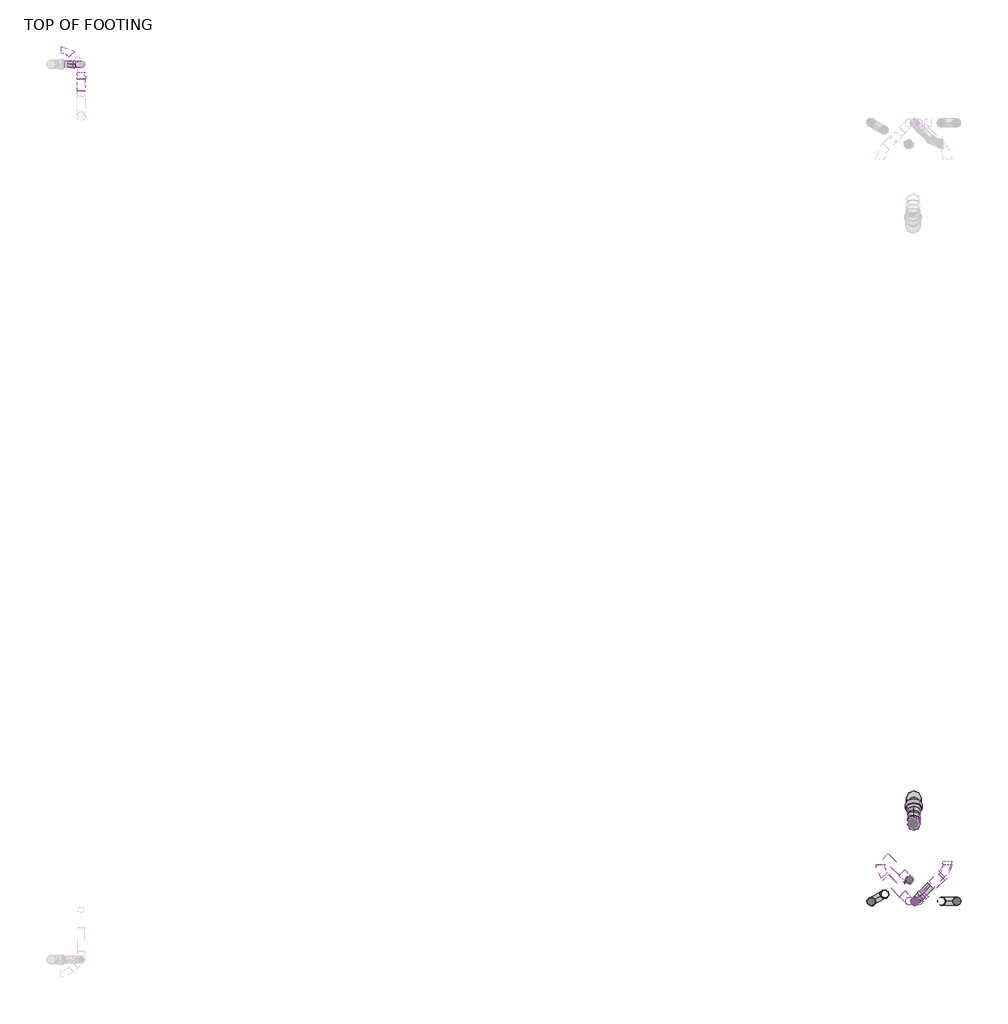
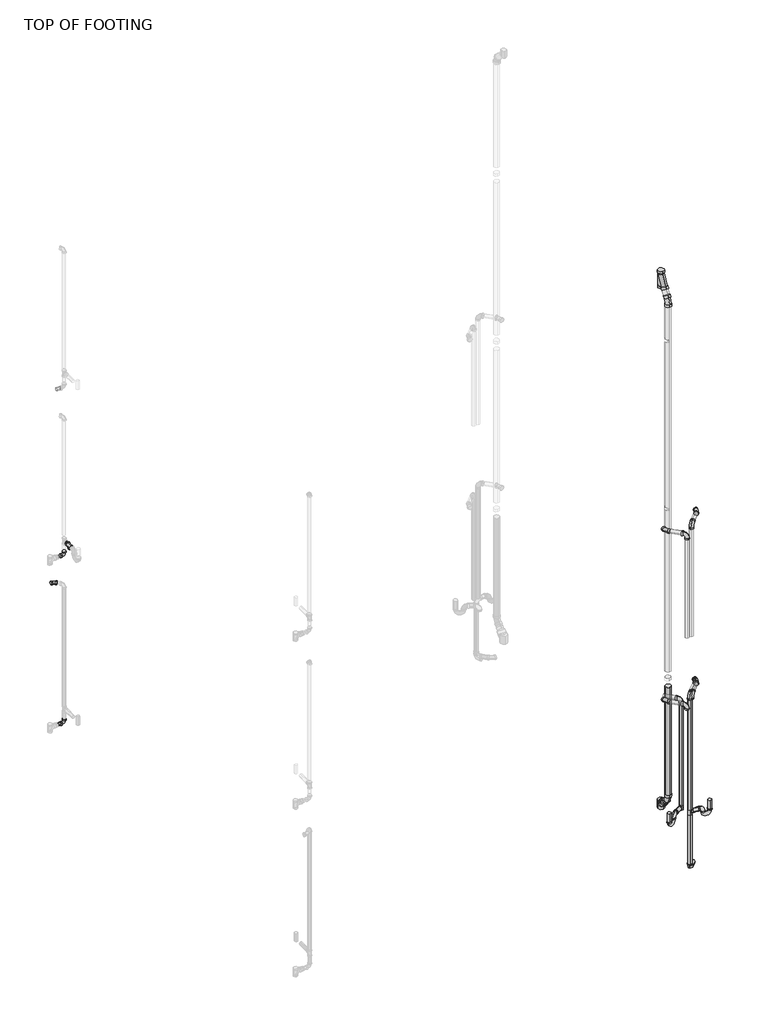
# One storey, part 2 of 8: 27 pipe segments, 26 pipe fittings.
"""IFC4 building model written with IfcOpenShell, lengths in millimetres."""

from ifc_helpers import new_model, si_unit, point, frame, frame_2d, origin, place, context, project, spatial, circle_curve, trimmed, segment, composite_curve, outline, extrude, transform, mapped, element, save
from components import bend_pvc_sch_40_dwv_standard_738aab8b, bend_pvc_sch_40_dwv_standard_e59a9f3a, bend_pvc_sch_40_dwv_standard_f2f5988a, bend_pvc_sch_40_dwv_standard_afcfb702, bend_pvc_sch_40_dwv_standard_1eaeee76, bend_pvc_sch_40_dwv_standard_49f8c181, bend_pvc_sch_40_dwv_standard_f64d1520, bend_pvc_sch_40_dwv_standard_5ba2ab1b, bend_pvc_sch_40_dwv_standard_b2fbb50d, bend_pvc_sch_40_dwv_standard_88107920, ges_wye_45_deg_reducing_pvc_sch_40_dwv_standard_f9c3620a, pipe_tee_copper_k_0c7b4938, pipe_tee_copper_k_998683db, pipe_tee_copper_k_96819ad6, pipe_tee_copper_k_36278b8a, reducer_pvc_sch_40_dwv_standard_b2b0afcc, reducer_pvc_sch_40_dwv_standard_33e9f33e, standard_73d07651, standard_8c31f35f

model = new_model("IFC4")

# Units and contexts
model_context = context("Model", 3, world=origin())
ifc_project = project(units=[si_unit("LENGTHUNIT", "METRE", prefix="MILLI")], contexts=[model_context])

# Site, building, storey
site = spatial("IfcSite", under=ifc_project)
building = spatial("IfcBuilding", under=site)
storey = spatial("IfcBuildingStorey", under=building, Name="TOP OF FOOTING", Elevation=-762.0)

# Pipe fittings
placement = place(None, origin())
bend_pvc_sch_40_dwv_standard_shape = bend_pvc_sch_40_dwv_standard_738aab8b(model_context)
element("IfcPipeFitting", 1, ObjectType="Bend - PVC - Sch 40 - DWV : Standard", at=placement, inside=storey, context=model_context, shape_type="MappedRepresentation", body=[
    mapped(bend_pvc_sch_40_dwv_standard_shape, transform((-4229.3040125, 8911.2827391, 337.3617935), x_axis=(1.0, 0.0, 0.0), y_axis=(0.0, 0.0, 1.0), z_axis=(0.0, -1.0, 0.0))),
])
element("IfcPipeFitting", 2, ObjectType="Bend - PVC - Sch 40 - DWV : Standard", at=placement, inside=storey, context=model_context, shape_type="MappedRepresentation", body=[
    mapped(bend_pvc_sch_40_dwv_standard_shape, transform((-4229.3040125, 8911.2827391, 3182.1617935), x_axis=(1.0, 0.0, 0.0), y_axis=(0.0, 0.0, 1.0), z_axis=(0.0, -1.0, 0.0))),
])
bend_pvc_sch_40_dwv_standard_2_shape = bend_pvc_sch_40_dwv_standard_e59a9f3a(model_context)
element("IfcPipeFitting", 3, ObjectType="Bend - PVC - Sch 40 - DWV : Standard", at=placement, inside=storey, context=model_context, shape_type="MappedRepresentation", body=[
    mapped(bend_pvc_sch_40_dwv_standard_2_shape, transform((-4335.4643184, 9017.693639, 2683.7324777), x_axis=(-0.7070684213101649, 0.7071067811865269, 0.007365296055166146), y_axis=(-0.7070684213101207, -0.7071067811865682, 0.007365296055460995), z_axis=(0.01041610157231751, 0.0, 0.9999457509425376))),
])
bend_pvc_sch_40_dwv_standard_3_shape = bend_pvc_sch_40_dwv_standard_f2f5988a(model_context)
element("IfcPipeFitting", 4, ObjectType="Bend - PVC - Sch 40 - DWV : Standard", at=placement, inside=storey, context=model_context, shape_type="MappedRepresentation", body=[
    mapped(bend_pvc_sch_40_dwv_standard_3_shape, transform((1864.3084882, 2756.9013629, 5188.0113455), x_axis=(2.761384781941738e-10, -0.9999999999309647, 1.1750347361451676e-05), y_axis=(0.9999999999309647, 1.3806781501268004e-10, -1.1750347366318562e-05), z_axis=(1.1750347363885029e-05, 1.175034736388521e-05, 0.9999999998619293))),
])
element("IfcPipeFitting", 5, ObjectType="Bend - PVC - Sch 40 - DWV : Standard", at=placement, inside=storey, context=model_context, shape_type="MappedRepresentation", body=[
    mapped(bend_pvc_sch_40_dwv_standard_3_shape, transform((1864.3084882, 2756.8345081, 2298.7613463), x_axis=(2.761384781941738e-10, -0.9999999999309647, 1.1750347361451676e-05), y_axis=(0.9999999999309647, 1.3806781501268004e-10, -1.1750347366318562e-05), z_axis=(1.1750347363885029e-05, 1.175034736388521e-05, 0.9999999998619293))),
])
bend_pvc_sch_40_dwv_standard_4_shape = bend_pvc_sch_40_dwv_standard_afcfb702(model_context)
element("IfcPipeFitting", 6, ObjectType="Bend - PVC - Sch 40 - DWV : Standard", at=placement, inside=storey, context=model_context, shape_type="MappedRepresentation", body=[
    mapped(bend_pvc_sch_40_dwv_standard_4_shape, transform((2125.6547588, 2534.3452569, -490.0650541), x_axis=(-8.473962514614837e-06, -4.618834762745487e-06, -0.9999999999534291), y_axis=(0.7070876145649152, 0.7071259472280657, -9.257931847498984e-06), z_axis=(0.707125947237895, -0.7070876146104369, -2.7262379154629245e-06))),
])
bend_pvc_sch_40_dwv_standard_5_shape = bend_pvc_sch_40_dwv_standard_1eaeee76(model_context)
element("IfcPipeFitting", 7, ObjectType="Bend - PVC - Sch 40 - DWV : Standard", at=placement, inside=storey, context=model_context, shape_type="MappedRepresentation", body=[
    mapped(bend_pvc_sch_40_dwv_standard_5_shape, transform((2082.6624053, 2697.0376775, 2298.6947608), x_axis=(0.0, 0.0, 1.0), y_axis=(-0.7071067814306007, 0.7071067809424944, 0.0), z_axis=(-0.7071067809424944, -0.7071067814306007, 0.0))),
])
element("IfcPipeFitting", 8, ObjectType="Bend - PVC - Sch 40 - DWV : Standard", at=placement, inside=storey, context=model_context, shape_type="MappedRepresentation", body=[
    mapped(bend_pvc_sch_40_dwv_standard_5_shape, transform((2085.2449931, 2535.844278, 5187.9447608), x_axis=(0.0, 0.0, 1.0), y_axis=(-0.7071067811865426, 0.7071067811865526, 0.0), z_axis=(-0.7071067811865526, -0.7071067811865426, 0.0))),
])
element("IfcPipeFitting", 9, ObjectType="Bend - PVC - Sch 40 - DWV : Standard", at=placement, inside=storey, context=model_context, shape_type="MappedRepresentation", body=[
    mapped(bend_pvc_sch_40_dwv_standard_5_shape, transform((2085.2449931, 2535.844278, 2298.6947608), x_axis=(0.0, 0.0, 1.0), y_axis=(-0.7071067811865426, 0.7071067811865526, 0.0), z_axis=(-0.7071067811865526, -0.7071067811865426, 0.0))),
])
bend_pvc_sch_40_dwv_standard_6_shape = bend_pvc_sch_40_dwv_standard_49f8c181(model_context)
element("IfcPipeFitting", 10, ObjectType="Bend - PVC - Sch 40 - DWV : Standard", at=placement, inside=storey, context=model_context, shape_type="MappedRepresentation", body=[
    mapped(bend_pvc_sch_40_dwv_standard_6_shape, transform((2151.4348028, 2535.7814571, 5340.345709), x_axis=(0.0, 0.0, 1.0), y_axis=(-0.7071067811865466, -0.7071067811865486, 0.0), z_axis=(0.7071067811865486, -0.7071067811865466, 0.0))),
])
element("IfcPipeFitting", 11, ObjectType="Bend - PVC - Sch 40 - DWV : Standard", at=placement, inside=storey, context=model_context, shape_type="MappedRepresentation", body=[
    mapped(bend_pvc_sch_40_dwv_standard_6_shape, transform((2151.4348028, 2535.7814571, 2451.095709), x_axis=(0.0, 0.0, 1.0), y_axis=(-0.7071067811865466, -0.7071067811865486, 0.0), z_axis=(0.7071067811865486, -0.7071067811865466, 0.0))),
])
bend_pvc_sch_40_dwv_standard_7_shape = bend_pvc_sch_40_dwv_standard_f64d1520(model_context)
element("IfcPipeFitting", 12, ObjectType="Bend - PVC - Sch 40 - DWV : Standard", at=placement, inside=storey, context=model_context, shape_type="MappedRepresentation", body=[
    mapped(bend_pvc_sch_40_dwv_standard_7_shape, transform((2372.3084874, 2780.9836988, 2451.0912059), x_axis=(2.761384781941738e-10, -0.9999999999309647, 1.1750347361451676e-05), y_axis=(0.9999999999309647, 1.3806781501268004e-10, -1.1750347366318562e-05), z_axis=(1.1750347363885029e-05, 1.175034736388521e-05, 0.9999999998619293))),
])
element("IfcPipeFitting", 13, ObjectType="Bend - PVC - Sch 40 - DWV : Standard", at=placement, inside=storey, context=model_context, shape_type="MappedRepresentation", body=[
    mapped(bend_pvc_sch_40_dwv_standard_7_shape, transform((2372.3084882, 2756.7793027, 5340.4113469), x_axis=(2.761384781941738e-10, -0.9999999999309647, 1.1750347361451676e-05), y_axis=(0.9999999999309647, 1.3806781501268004e-10, -1.1750347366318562e-05), z_axis=(1.1750347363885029e-05, 1.175034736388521e-05, 0.9999999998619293))),
])
element("IfcPipeFitting", 14, ObjectType="Bend - PVC - Sch 40 - DWV : Standard", at=placement, inside=storey, context=model_context, shape_type="MappedRepresentation", body=[
    mapped(bend_pvc_sch_40_dwv_standard_7_shape, transform((2372.3084882, 2756.712448, 2451.1613477), x_axis=(2.761384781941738e-10, -0.9999999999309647, 1.1750347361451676e-05), y_axis=(0.9999999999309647, 1.3806781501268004e-10, -1.1750347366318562e-05), z_axis=(1.1750347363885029e-05, 1.175034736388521e-05, 0.9999999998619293))),
])
bend_pvc_sch_40_dwv_standard_8_shape = bend_pvc_sch_40_dwv_standard_5ba2ab1b(model_context)
element("IfcPipeFitting", 15, ObjectType="Bend - PVC - Sch 40 - DWV : Standard", at=placement, inside=storey, context=model_context, shape_type="MappedRepresentation", body=[
    mapped(bend_pvc_sch_40_dwv_standard_8_shape, transform((2118.3714513, 3124.1641419, 8773.9167613), x_axis=(0.0, 0.0, 1.0), y_axis=(-0.005243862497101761, 0.9999862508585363, 0.0), z_axis=(-0.9999862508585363, -0.005243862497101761, 0.0))),
])
bend_pvc_sch_40_dwv_standard_9_shape = bend_pvc_sch_40_dwv_standard_b2fbb50d(model_context)
element("IfcPipeFitting", 16, ObjectType="Bend - PVC - Sch 40 - DWV : Standard", at=placement, inside=storey, context=model_context, shape_type="MappedRepresentation", body=[
    mapped(bend_pvc_sch_40_dwv_standard_9_shape, transform((2118.30848, 3124.1638117, 328.2927869), x_axis=(0.0, 0.0, -1.0), y_axis=(0.0, 1.0, 0.0), z_axis=(1.0, 0.0, 0.0))),
])
bend_pvc_sch_40_dwv_standard_10_shape = bend_pvc_sch_40_dwv_standard_88107920(model_context)
element("IfcPipeFitting", 17, ObjectType="Bend - PVC - Sch 40 - DWV : Standard", at=placement, inside=storey, context=model_context, shape_type="MappedRepresentation", body=[
    mapped(bend_pvc_sch_40_dwv_standard_10_shape, transform((2125.6812457, 2534.356457, 2451.0970018), x_axis=(-0.7071067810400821, -0.7071067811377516, 1.6617500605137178e-05), y_axis=(-1.1750347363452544e-05, -1.1750347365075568e-05, -0.9999999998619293), z_axis=(0.7071067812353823, -0.7071067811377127, 0.0))),
])
ges_wye_45_deg_reducing_pvc_sch_40_dwv_standard_shape = ges_wye_45_deg_reducing_pvc_sch_40_dwv_standard_f9c3620a(model_context)
element("IfcPipeFitting", 18, ObjectType="GES Wye 45 Deg Reducing - PVC - Sch 40 - DWV : Standard", at=placement, inside=storey, context=model_context, shape_type="MappedRepresentation", body=[
    mapped(ges_wye_45_deg_reducing_pvc_sch_40_dwv_standard_shape, transform((2117.9266298, 3321.8387881, 9116.2992918), x_axis=(0.0, 0.0, 1.0), y_axis=(0.0, 1.0, 0.0), z_axis=(-1.0, 0.0, 0.0))),
])
pipe_tee_copper_k_shape = pipe_tee_copper_k_0c7b4938(model_context)
element("IfcPipeFitting", 19, ObjectType="Pipe Tee : Copper- K", at=placement, inside=storey, context=model_context, shape_type="MappedRepresentation", body=[
    mapped(pipe_tee_copper_k_shape, transform((2117.9109319, 3320.2843323, 132.1722666), x_axis=(1.7626347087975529e-06, 0.0, 0.9999999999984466), y_axis=(1.7626347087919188e-06, 0.9999999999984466, -3.106881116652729e-12), z_axis=(-0.9999999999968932, 1.7626347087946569e-06, 1.7626347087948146e-06))),
])
pipe_tee_copper_k_2_shape = pipe_tee_copper_k_998683db(model_context)
element("IfcPipeFitting", 20, ObjectType="Pipe Tee : Copper- K", at=placement, inside=storey, context=model_context, shape_type="MappedRepresentation", body=[
    mapped(pipe_tee_copper_k_2_shape, transform((2125.6631493, 2534.3465934, 465.1721638), x_axis=(9.48387163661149e-06, 5.169297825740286e-06, 0.9999999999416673), y_axis=(-0.9999999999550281, 4.902495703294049e-11, 9.483871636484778e-06), z_axis=(0.0, -0.9999999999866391, 5.169297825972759e-06))),
])
pipe_tee_copper_k_3_shape = pipe_tee_copper_k_96819ad6(model_context)
element("IfcPipeFitting", 21, ObjectType="Pipe Tee : Copper- K", at=placement, inside=storey, context=model_context, shape_type="MappedRepresentation", body=[
    mapped(pipe_tee_copper_k_3_shape, transform((2082.3411147, 2696.8534263, 465.1758179), x_axis=(0.007495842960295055, 0.0042986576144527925, 0.9999626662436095), y_axis=(0.8674460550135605, 0.49745620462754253, -0.008640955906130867), z_axis=(-0.497474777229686, 0.8674784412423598, 0.0))),
])
pipe_tee_copper_k_4_shape = pipe_tee_copper_k_36278b8a(model_context)
element("IfcPipeFitting", 22, ObjectType="Pipe Tee : Standard", at=placement, inside=storey, context=model_context, shape_type="MappedRepresentation", body=[
    mapped(pipe_tee_copper_k_4_shape, transform((-4229.3040125, 8753.1790386, 3423.7221294), x_axis=(0.0, 0.999989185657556, 0.004650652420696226), y_axis=(0.0, -0.004650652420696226, 0.999989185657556), z_axis=(1.0, 0.0, 0.0))),
])
reducer_pvc_sch_40_dwv_standard_shape = reducer_pvc_sch_40_dwv_standard_b2b0afcc(model_context)
element("IfcPipeFitting", 23, ObjectType="Reducer - PVC - Sch 40 - DWV : Standard", at=placement, inside=storey, context=model_context, shape_type="MappedRepresentation", body=[
    mapped(reducer_pvc_sch_40_dwv_standard_shape, transform((-4229.3040125, 8849.6166218, 3423.4948628), x_axis=(0.0, -0.999945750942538, 0.010416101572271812), y_axis=(1.0000000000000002, 0.0, 0.0), z_axis=(0.0, 0.010416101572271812, 0.999945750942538))),
])
reducer_pvc_sch_40_dwv_standard_2_shape = reducer_pvc_sch_40_dwv_standard_33e9f33e(model_context)
element("IfcPipeFitting", 24, ObjectType="Reducer - PVC - Sch 40 - DWV : Standard", at=placement, inside=storey, context=model_context, shape_type="MappedRepresentation", body=[
    mapped(reducer_pvc_sch_40_dwv_standard_2_shape, transform((2117.9109319, 3272.0154557, 180.4411432), x_axis=(0.0, -0.70710678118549, 0.7071067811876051), y_axis=(0.9999999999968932, -1.7626347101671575e-06, -1.7626347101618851e-06), z_axis=(2.4927419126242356e-06, 0.7071067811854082, 0.7071067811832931))),
])
standard_shape = standard_73d07651(model_context)
element("IfcPipeFitting", 25, ObjectType="GES P TRAP PVC Sch 40 - DWV : Standard", at=placement, inside=storey, context=model_context, shape_type="MappedRepresentation", body=[
    mapped(standard_shape, transform((1794.0401975, 2531.6909405, 465.1721683), x_axis=(0.0, 0.0, -1.0), y_axis=(0.8674784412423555, 0.49747477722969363, 0.0), z_axis=(0.49747477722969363, -0.8674784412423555, 0.0))),
])
standard_2_shape = standard_8c31f35f(model_context)
element("IfcPipeFitting", 26, ObjectType="GES P TRAP PVC Sch 40 - DWV : Standard", at=placement, inside=storey, context=model_context, shape_type="MappedRepresentation", body=[
    mapped(standard_2_shape, transform((2445.5044895, 2534.3465934, 465.1721638), x_axis=(0.0, 0.0, -1.0), y_axis=(1.0, 0.0, 0.0), z_axis=(0.0, -1.0, 0.0))),
])

# Pipe segments
element("IfcPipeSegment", 27, ObjectType="PVC - SAN/STORM", at=placement, inside=storey, context=model_context, shape_type="SweptSolid", body=[
    extrude(outline(composite_curve([segment(trimmed(circle_curve(frame_2d((2534.3465934, 465.1721638)), 30.1625), [point((2564.5090934, 465.1721638))], [point((2534.3465934, 435.0096638))], False, "CARTESIAN"), True, "CONTINUOUS"), segment(trimmed(circle_curve(frame_2d((2534.3465934, 465.1721638)), 30.1625), [point((2534.3465934, 435.0096638))], [point((2504.1840934, 465.1721638))], False, "CARTESIAN"), True, "CONTINUOUS"), segment(trimmed(circle_curve(frame_2d((2534.3465934, 465.1721638)), 30.1625), [point((2504.1840934, 465.1721638))], [point((2534.3465934, 495.3346638))], False, "CARTESIAN"), True, "CONTINUOUS"), segment(trimmed(circle_curve(frame_2d((2534.3465934, 465.1721638)), 30.1625), [point((2534.3465934, 495.3346638))], [point((2564.5090934, 465.1721638))], False, "CARTESIAN"), True, "CONTINUOUS")], self_intersect=False)), frame((2168.5256493, 0.0, 0.0), z_axis=(1.0, 0.0, 0.0), x_axis=(0.0, 1.0, 0.0)), (0.0, 0.0, 1.0), 84.8913402),
])
element("IfcPipeSegment", 28, ObjectType="PVC - SAN/STORM", at=placement, inside=storey, context=model_context, shape_type="SweptSolid", body=[
    extrude(outline(composite_curve([segment(trimmed(circle_curve(frame_2d((2445.5044895, 2534.3465934)), 30.1625), [point((2415.3419895, 2534.3465934))], [point((2445.5044895, 2564.5090934))], False, "CARTESIAN"), True, "CONTINUOUS"), segment(trimmed(circle_curve(frame_2d((2445.5044895, 2534.3465934)), 30.1625), [point((2445.5044895, 2564.5090934))], [point((2475.6669895, 2534.3465934))], False, "CARTESIAN"), True, "CONTINUOUS"), segment(trimmed(circle_curve(frame_2d((2445.5044895, 2534.3465934)), 30.1625), [point((2475.6669895, 2534.3465934))], [point((2445.5044895, 2504.1840934))], False, "CARTESIAN"), True, "CONTINUOUS"), segment(trimmed(circle_curve(frame_2d((2445.5044895, 2534.3465934)), 30.1625), [point((2445.5044895, 2504.1840934))], [point((2415.3419895, 2534.3465934))], False, "CARTESIAN"), True, "CONTINUOUS")], self_intersect=False)), frame((0.0, 0.0, 417.5471638), z_axis=(0.0, 0.0, 1.0), x_axis=(1.0, 0.0, 0.0)), (0.0, 0.0, 1.0), 143.953922),
])
element("IfcPipeSegment", 29, ObjectType="PVC - SAN/STORM", at=placement, inside=storey, context=model_context, shape_type="SweptSolid", body=[
    extrude(outline(composite_curve([segment(trimmed(circle_curve(frame_2d((0.0, -30.1625)), 30.1625), [point((-30.1625, -30.1625))], [point((0.0, 0.0))], False, "CARTESIAN"), True, "CONTINUOUS"), segment(trimmed(circle_curve(frame_2d((0.0, -30.1625)), 30.1625), [point((0.0, 0.0))], [point((30.1625, -30.1625))], False, "CARTESIAN"), True, "CONTINUOUS"), segment(trimmed(circle_curve(frame_2d((0.0, -30.1625)), 30.1625), [point((30.1625, -30.1625))], [point((0.0, -60.325))], False, "CARTESIAN"), True, "CONTINUOUS"), segment(trimmed(circle_curve(frame_2d((0.0, -30.1625)), 30.1625), [point((0.0, -60.325))], [point((-30.1625, -30.1625))], False, "CARTESIAN"), True, "CONTINUOUS")], self_intersect=False)), frame((2125.655418, 2504.1831162, -412.2648268), z_axis=(8.776632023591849e-06, 9.053704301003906e-07, 0.9999999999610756), x_axis=(-0.9999999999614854, 7.945644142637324e-12, 8.776632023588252e-06)), (0.0, 0.0, 1.0), 834.574518),
])
element("IfcPipeSegment", 30, ObjectType="PVC - SAN/STORM", at=placement, inside=storey, context=model_context, shape_type="SweptSolid", body=[
    extrude(outline(composite_curve([segment(trimmed(circle_curve(frame_2d((-1e-07, 30.1625)), 30.1625), [point((-30.161682, 30.3846377))], [point((0.2221376, 60.324182))], False, "CARTESIAN"), True, "CONTINUOUS"), segment(trimmed(circle_curve(frame_2d((-1e-07, 30.1625)), 30.1625), [point((0.2221376, 60.324182))], [point((30.161682, 29.9403623))], False, "CARTESIAN"), True, "CONTINUOUS"), segment(trimmed(circle_curve(frame_2d((-1e-07, 30.1625)), 30.1625), [point((30.161682, 29.9403623))], [point((-0.2221377, 0.000818))], False, "CARTESIAN"), True, "CONTINUOUS"), segment(trimmed(circle_curve(frame_2d((-1e-07, 30.1625)), 30.1625), [point((-0.2221377, 0.000818))], [point((-30.161682, 30.3846377))], False, "CARTESIAN"), True, "CONTINUOUS")], self_intersect=False)), frame((2243.87995, 2652.2627034, -521.4574304), z_axis=(-0.707068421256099, -0.7071067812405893, 0.007365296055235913), x_axis=(0.7071451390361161, -0.7070300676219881, 0.007364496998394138)), (0.0, 0.0, 1.0), 89.4045395),
])
element("IfcPipeSegment", 31, ObjectType="PVC - SAN/STORM", at=placement, inside=storey, context=model_context, shape_type="SweptSolid", body=[
    extrude(outline(composite_curve([segment(trimmed(circle_curve(frame_2d((0.0, 30.1625)), 30.1625), [point((30.1625, 30.1625))], [point((0.0, 0.0))], False, "CARTESIAN"), True, "CONTINUOUS"), segment(trimmed(circle_curve(frame_2d((0.0, 30.1625)), 30.1625), [point((0.0, 0.0))], [point((-30.1625, 30.1625))], False, "CARTESIAN"), True, "CONTINUOUS"), segment(trimmed(circle_curve(frame_2d((0.0, 30.1625)), 30.1625), [point((-30.1625, 30.1625))], [point((0.0, 60.325))], False, "CARTESIAN"), True, "CONTINUOUS"), segment(trimmed(circle_curve(frame_2d((0.0, 30.1625)), 30.1625), [point((0.0, 60.325))], [point((30.1625, 30.1625))], False, "CARTESIAN"), True, "CONTINUOUS")], self_intersect=False)), frame((1960.7453594, 2627.12164, 495.3383179), z_axis=(0.8674784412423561, 0.49747477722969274, 0.0), x_axis=(0.49747477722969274, -0.8674784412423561, 0.0)), (0.0, 0.0, 1.0), 97.3090011),
])
element("IfcPipeSegment", 32, ObjectType="PVC - SAN/STORM", at=placement, inside=storey, context=model_context, shape_type="SweptSolid", body=[
    extrude(outline(composite_curve([segment(trimmed(circle_curve(frame_2d((1794.0401975, 2531.6909405)), 30.1625), [point((1763.8776975, 2531.6909405))], [point((1794.0401975, 2561.8534405))], False, "CARTESIAN"), True, "CONTINUOUS"), segment(trimmed(circle_curve(frame_2d((1794.0401975, 2531.6909405)), 30.1625), [point((1794.0401975, 2561.8534405))], [point((1824.2026975, 2531.6909405))], False, "CARTESIAN"), True, "CONTINUOUS"), segment(trimmed(circle_curve(frame_2d((1794.0401975, 2531.6909405)), 30.1625), [point((1824.2026975, 2531.6909405))], [point((1794.0401975, 2501.5284405))], False, "CARTESIAN"), True, "CONTINUOUS"), segment(trimmed(circle_curve(frame_2d((1794.0401975, 2531.6909405)), 30.1625), [point((1794.0401975, 2501.5284405))], [point((1763.8776975, 2531.6909405))], False, "CARTESIAN"), True, "CONTINUOUS")], self_intersect=False)), frame((0.0, 0.0, 417.5471683), z_axis=(0.0, 0.0, 1.0), x_axis=(1.0, 0.0, 0.0)), (0.0, 0.0, 1.0), 143.9539175),
])
element("IfcPipeSegment", 33, ObjectType="PVC - SAN/STORM", at=placement, inside=storey, context=model_context, shape_type="SweptSolid", body=[
    extrude(outline(composite_curve([segment(trimmed(circle_curve(frame_2d((0.0, -30.1625)), 30.1625), [point((30.1625, -30.1630012))], [point((-0.0005012, -60.325))], False, "CARTESIAN"), True, "CONTINUOUS"), segment(trimmed(circle_curve(frame_2d((0.0, -30.1625)), 30.1625), [point((-0.0005012, -60.325))], [point((-30.1625, -30.1619988))], False, "CARTESIAN"), True, "CONTINUOUS"), segment(trimmed(circle_curve(frame_2d((0.0, -30.1625)), 30.1625), [point((-30.1625, -30.1619988))], [point((0.0005012, 0.0))], False, "CARTESIAN"), True, "CONTINUOUS"), segment(trimmed(circle_curve(frame_2d((0.0, -30.1625)), 30.1625), [point((0.0005012, 0.0))], [point((30.1625, -30.1630012))], False, "CARTESIAN"), True, "CONTINUOUS")], self_intersect=False)), frame((2331.8973349, 2740.5732551, 2481.2546556), z_axis=(-0.70710678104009, -0.7071067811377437, 1.6617500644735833e-05), x_axis=(0.7071067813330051, -0.7071067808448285, 1.661750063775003e-05)), (0.0, 0.0, 1.0), 213.8333902),
])
element("IfcPipeSegment", 34, ObjectType="PVC - SAN/STORM", at=placement, inside=storey, context=model_context, shape_type="SweptSolid", body=[
    extrude(outline(composite_curve([segment(trimmed(circle_curve(frame_2d((0.0, 30.1625)), 30.1625), [point((30.1625, 30.1625))], [point((0.0, 0.0))], False, "CARTESIAN"), True, "CONTINUOUS"), segment(trimmed(circle_curve(frame_2d((0.0, 30.1625)), 30.1625), [point((0.0, 0.0))], [point((-30.1624999, 30.1625))], False, "CARTESIAN"), True, "CONTINUOUS"), segment(trimmed(circle_curve(frame_2d((0.0, 30.1625)), 30.1625), [point((-30.1624999, 30.1625))], [point((0.0, 60.325))], False, "CARTESIAN"), True, "CONTINUOUS"), segment(trimmed(circle_curve(frame_2d((0.0, 30.1625)), 30.1625), [point((0.0, 60.325))], [point((30.1625, 30.1625))], False, "CARTESIAN"), True, "CONTINUOUS")], self_intersect=False)), frame((2027.6493562, 2752.0507265, 2328.8572608), z_axis=(-0.7126279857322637, 0.7015421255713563, 0.0), x_axis=(0.7015421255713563, 0.7126279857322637, 0.0)), (0.0, 0.0, 1.0), 176.8089706),
])
element("IfcPipeSegment", 35, ObjectType="PVC - SAN/STORM", at=placement, inside=storey, context=model_context, shape_type="SweptSolid", body=[
    extrude(outline(composite_curve([segment(trimmed(circle_curve(frame_2d((2118.30848, 3124.1638117)), 44.45), [point((2073.85848, 3124.1638117))], [point((2118.30848, 3168.6138117))], False, "CARTESIAN"), True, "CONTINUOUS"), segment(trimmed(circle_curve(frame_2d((2118.30848, 3124.1638117)), 44.45), [point((2118.30848, 3168.6138117))], [point((2162.75848, 3124.1638117))], False, "CARTESIAN"), True, "CONTINUOUS"), segment(trimmed(circle_curve(frame_2d((2118.30848, 3124.1638117)), 44.45), [point((2162.75848, 3124.1638117))], [point((2118.30848, 3079.7138117))], False, "CARTESIAN"), True, "CONTINUOUS"), segment(trimmed(circle_curve(frame_2d((2118.30848, 3124.1638117)), 44.45), [point((2118.30848, 3079.7138117))], [point((2073.85848, 3124.1638117))], False, "CARTESIAN"), True, "CONTINUOUS")], self_intersect=False)), frame((0.0, 0.0, 2507.0252068), z_axis=(0.0, 0.0, 1.0), x_axis=(1.0, 0.0, 0.0)), (0.0, 0.0, 1.0), 6184.3415545),
])
element("IfcPipeSegment", 36, ObjectType="PVC - SAN/STORM", at=placement, inside=storey, context=model_context, shape_type="SweptSolid", body=[
    extrude(outline(composite_curve([segment(trimmed(circle_curve(frame_2d((2118.30848, 3124.1638117)), 44.45), [point((2073.85848, 3124.1638117))], [point((2118.30848, 3168.6138117))], False, "CARTESIAN"), True, "CONTINUOUS"), segment(trimmed(circle_curve(frame_2d((2118.30848, 3124.1638117)), 44.45), [point((2118.30848, 3168.6138117))], [point((2162.75848, 3124.1638117))], False, "CARTESIAN"), True, "CONTINUOUS"), segment(trimmed(circle_curve(frame_2d((2118.30848, 3124.1638117)), 44.45), [point((2162.75848, 3124.1638117))], [point((2118.30848, 3079.7138117))], False, "CARTESIAN"), True, "CONTINUOUS"), segment(trimmed(circle_curve(frame_2d((2118.30848, 3124.1638117)), 44.45), [point((2118.30848, 3079.7138117))], [point((2073.85848, 3124.1638117))], False, "CARTESIAN"), True, "CONTINUOUS")], self_intersect=False)), frame((0.0, 0.0, 2354.2615858), z_axis=(0.0, 0.0, 1.0), x_axis=(1.0, 0.0, 0.0)), (0.0, 0.0, 1.0), 41.638621),
])
element("IfcPipeSegment", 37, ObjectType="PVC - SAN/STORM", at=placement, inside=storey, context=model_context, shape_type="SweptSolid", body=[
    extrude(outline(composite_curve([segment(trimmed(circle_curve(frame_2d((0.0, -44.45)), 44.45), [point((-44.4495416, -44.6518616))], [point((-0.2018616, -0.0004584))], False, "CARTESIAN"), True, "CONTINUOUS"), segment(trimmed(circle_curve(frame_2d((0.0, -44.45)), 44.45), [point((-0.2018616, -0.0004584))], [point((44.4495417, -44.2481384))], False, "CARTESIAN"), True, "CONTINUOUS"), segment(trimmed(circle_curve(frame_2d((0.0, -44.45)), 44.45), [point((44.4495417, -44.2481384))], [point((0.2018616, -88.8995416))], False, "CARTESIAN"), True, "CONTINUOUS"), segment(trimmed(circle_curve(frame_2d((0.0, -44.45)), 44.45), [point((0.2018616, -88.8995416))], [point((-44.4495416, -44.6518616))], False, "CARTESIAN"), True, "CONTINUOUS")], self_intersect=False)), frame((2118.1550086, 3203.9338292, 8823.1819126), z_axis=(-0.0026219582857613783, 0.4999982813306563, 0.8660224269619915), x_axis=(0.9999965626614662, 0.0013109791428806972, 0.002270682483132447)), (0.0, 0.0, 1.0), 87.1023704),
])
element("IfcPipeSegment", 38, ObjectType="PVC - SAN/STORM", at=placement, inside=storey, context=model_context, shape_type="SweptSolid", body=[
    extrude(outline(composite_curve([segment(trimmed(circle_curve(frame_2d((0.0, -30.1625)), 30.1625), [point((-30.1625, -30.1625))], [point((0.0, 0.0))], False, "CARTESIAN"), True, "CONTINUOUS"), segment(trimmed(circle_curve(frame_2d((0.0, -30.1625)), 30.1625), [point((0.0, 0.0))], [point((30.1625, -30.1625))], False, "CARTESIAN"), True, "CONTINUOUS"), segment(trimmed(circle_curve(frame_2d((0.0, -30.1625)), 30.1625), [point((30.1625, -30.1625))], [point((0.0, -60.3250001))], False, "CARTESIAN"), True, "CONTINUOUS"), segment(trimmed(circle_curve(frame_2d((0.0, -30.1625)), 30.1625), [point((0.0, -60.3250001))], [point((-30.1625, -30.1625))], False, "CARTESIAN"), True, "CONTINUOUS")], self_intersect=False)), frame((-4229.3040125, 8707.2385999, 3393.3036446), z_axis=(0.0, 0.9998557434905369, 0.016985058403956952), x_axis=(1.0, 0.0, 0.0)), (0.0, 0.0, 1.0), 3.5912321),
])
element("IfcPipeSegment", 39, ObjectType="PVC - SAN/STORM", at=placement, inside=storey, context=model_context, shape_type="SweptSolid", body=[
    extrude(outline(composite_curve([segment(trimmed(circle_curve(frame_2d((0.0, 30.1625)), 30.1625), [point((-30.1625, 30.1625))], [point((0.0, 60.325))], False, "CARTESIAN"), True, "CONTINUOUS"), segment(trimmed(circle_curve(frame_2d((0.0, 30.1625)), 30.1625), [point((0.0, 60.325))], [point((30.1625, 30.1625))], False, "CARTESIAN"), True, "CONTINUOUS"), segment(trimmed(circle_curve(frame_2d((0.0, 30.1625)), 30.1625), [point((30.1625, 30.1625))], [point((0.0, 0.0))], False, "CARTESIAN"), True, "CONTINUOUS"), segment(trimmed(circle_curve(frame_2d((0.0, 30.1625)), 30.1625), [point((0.0, 0.0))], [point((-30.1625, 30.1625))], False, "CARTESIAN"), True, "CONTINUOUS")], self_intersect=False)), frame((-4229.3040125, 8799.1774955, 3393.7084441), z_axis=(0.0, -0.9998871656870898, 0.015021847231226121), x_axis=(1.0, 0.0, 0.0)), (0.0, 0.0, 1.0), 3.589922),
])
element("IfcPipeSegment", 40, ObjectType="PVC - SAN/STORM", at=placement, inside=storey, context=model_context, shape_type="SweptSolid", body=[
    extrude(outline(composite_curve([segment(trimmed(circle_curve(frame_2d((8911.2827391, 337.3617935)), 24.13), [point((8887.1527391, 337.3617935))], [point((8911.2827391, 361.4917935))], False, "CARTESIAN"), True, "CONTINUOUS"), segment(trimmed(circle_curve(frame_2d((8911.2827391, 337.3617935)), 24.13), [point((8911.2827391, 361.4917935))], [point((8935.4127391, 337.3617935))], False, "CARTESIAN"), True, "CONTINUOUS"), segment(trimmed(circle_curve(frame_2d((8911.2827391, 337.3617935)), 24.13), [point((8935.4127391, 337.3617935))], [point((8911.2827391, 313.2317935))], False, "CARTESIAN"), True, "CONTINUOUS"), segment(trimmed(circle_curve(frame_2d((8911.2827391, 337.3617935)), 24.13), [point((8911.2827391, 313.2317935))], [point((8887.1527391, 337.3617935))], False, "CARTESIAN"), True, "CONTINUOUS")], self_intersect=False)), frame((-4330.9166125, 0.0, 0.0), z_axis=(1.0, 0.0, 0.0), x_axis=(0.0, 1.0, 0.0)), (0.0, 0.0, 1.0), 39.7128),
])
element("IfcPipeSegment", 41, ObjectType="PVC - SAN/STORM", at=placement, inside=storey, context=model_context, shape_type="SweptSolid", body=[
    extrude(outline(composite_curve([segment(trimmed(circle_curve(frame_2d((8911.2827391, 3182.1617935)), 24.13), [point((8887.1527391, 3182.1617935))], [point((8911.2827391, 3206.2917935))], False, "CARTESIAN"), True, "CONTINUOUS"), segment(trimmed(circle_curve(frame_2d((8911.2827391, 3182.1617935)), 24.13), [point((8911.2827391, 3206.2917935))], [point((8935.4127391, 3182.1617935))], False, "CARTESIAN"), True, "CONTINUOUS"), segment(trimmed(circle_curve(frame_2d((8911.2827391, 3182.1617935)), 24.13), [point((8935.4127391, 3182.1617935))], [point((8911.2827391, 3158.0317935))], False, "CARTESIAN"), True, "CONTINUOUS"), segment(trimmed(circle_curve(frame_2d((8911.2827391, 3182.1617935)), 24.13), [point((8911.2827391, 3158.0317935))], [point((8887.1527391, 3182.1617935))], False, "CARTESIAN"), True, "CONTINUOUS")], self_intersect=False)), frame((-4330.9166125, 0.0, 0.0), z_axis=(1.0, 0.0, 0.0), x_axis=(0.0, 1.0, 0.0)), (0.0, 0.0, 1.0), 39.7128),
])
element("IfcPipeSegment", 42, ObjectType="PVC - SAN/STORM", at=placement, inside=storey, context=model_context, shape_type="SweptSolid", body=[
    extrude(outline(composite_curve([segment(trimmed(circle_curve(frame_2d((8911.8581235, 6026.9617935)), 24.13), [point((8935.9881235, 6026.9617935))], [point((8911.8581235, 6002.8317935))], False, "CARTESIAN"), True, "CONTINUOUS"), segment(trimmed(circle_curve(frame_2d((8911.8581235, 6026.9617935)), 24.13), [point((8911.8581235, 6002.8317935))], [point((8887.7281235, 6026.9617935))], False, "CARTESIAN"), True, "CONTINUOUS"), segment(trimmed(circle_curve(frame_2d((8911.8581235, 6026.9617935)), 24.13), [point((8887.7281235, 6026.9617935))], [point((8911.8581235, 6051.0917935))], False, "CARTESIAN"), True, "CONTINUOUS"), segment(trimmed(circle_curve(frame_2d((8911.8581235, 6026.9617935)), 24.13), [point((8911.8581235, 6051.0917935))], [point((8935.9881235, 6026.9617935))], False, "CARTESIAN"), True, "CONTINUOUS")], self_intersect=False)), frame((-4353.9272483, 0.0, 0.0), z_axis=(1.0, 0.0, 0.0), x_axis=(0.0, 1.0, 0.0)), (0.0, 0.0, 1.0), 62.7234358),
])
element("IfcPipeSegment", 43, ObjectType="PVC - SAN/STORM", at=placement, inside=storey, context=model_context, shape_type="SweptSolid", body=[
    extrude(outline(composite_curve([segment(trimmed(circle_curve(frame_2d((2118.30848, 3124.1638117)), 44.45), [point((2162.75848, 3124.1638117))], [point((2118.30848, 3079.7138117))], False, "CARTESIAN"), True, "CONTINUOUS"), segment(trimmed(circle_curve(frame_2d((2118.30848, 3124.1638117)), 44.45), [point((2118.30848, 3079.7138117))], [point((2073.85848, 3124.1638117))], False, "CARTESIAN"), True, "CONTINUOUS"), segment(trimmed(circle_curve(frame_2d((2118.30848, 3124.1638117)), 44.45), [point((2073.85848, 3124.1638117))], [point((2118.30848, 3168.6138117))], False, "CARTESIAN"), True, "CONTINUOUS"), segment(trimmed(circle_curve(frame_2d((2118.30848, 3124.1638117)), 44.45), [point((2118.30848, 3168.6138117))], [point((2162.75848, 3124.1638117))], False, "CARTESIAN"), True, "CONTINUOUS")], self_intersect=False)), frame((0.0, 0.0, 410.8427869), z_axis=(0.0, 0.0, 1.0), x_axis=(1.0, 0.0, 0.0)), (0.0, 0.0, 1.0), 1832.2937989),
])
element("IfcPipeSegment", 44, ObjectType="PVC - SAN/STORM", at=placement, inside=storey, context=model_context, shape_type="SweptSolid", body=[
    extrude(outline(composite_curve([segment(trimmed(circle_curve(frame_2d((0.0, 44.45)), 44.45), [point((-44.45, 44.45))], [point((0.0, 88.9000001))], False, "CARTESIAN"), True, "CONTINUOUS"), segment(trimmed(circle_curve(frame_2d((0.0, 44.45)), 44.45), [point((0.0, 88.9000001))], [point((44.45, 44.45))], False, "CARTESIAN"), True, "CONTINUOUS"), segment(trimmed(circle_curve(frame_2d((0.0, 44.45)), 44.45), [point((44.45, 44.45))], [point((0.0, 0.0))], False, "CARTESIAN"), True, "CONTINUOUS"), segment(trimmed(circle_curve(frame_2d((0.0, 44.45)), 44.45), [point((0.0, 0.0))], [point((-44.45, 44.45))], False, "CARTESIAN"), True, "CONTINUOUS")], self_intersect=False)), frame((2118.30848, 3165.365933, 224.2288716), z_axis=(0.0, -0.7071067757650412, 0.7071067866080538), x_axis=(1.0, 0.0, 0.0)), (0.0, 0.0, 1.0), 20.1685999),
])
element("IfcPipeSegment", 45, ObjectType="PVC - SAN/STORM", at=placement, inside=storey, context=model_context, shape_type="SweptSolid", body=[
    extrude(outline(composite_curve([segment(trimmed(circle_curve(frame_2d((0.0, -30.1625)), 30.1625), [point((-30.1625, -30.1625))], [point((0.0, 0.0))], False, "CARTESIAN"), True, "CONTINUOUS"), segment(trimmed(circle_curve(frame_2d((0.0, -30.1625)), 30.1625), [point((0.0, 0.0))], [point((30.1625, -30.1625))], False, "CARTESIAN"), True, "CONTINUOUS"), segment(trimmed(circle_curve(frame_2d((0.0, -30.1625)), 30.1625), [point((30.1625, -30.1625))], [point((0.0, -60.325))], False, "CARTESIAN"), True, "CONTINUOUS"), segment(trimmed(circle_curve(frame_2d((0.0, -30.1625)), 30.1625), [point((0.0, -60.325))], [point((-30.1625, -30.1625))], False, "CARTESIAN"), True, "CONTINUOUS")], self_intersect=False)), frame((2125.6635558, 2504.1843149, 508.0348197), z_axis=(9.48387163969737e-06, 5.169297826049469e-06, 0.9999999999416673), x_axis=(-0.9999999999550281, 4.902567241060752e-11, 9.483871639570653e-06)), (0.0, 0.0, 1.0), 1865.2621381),
])
element("IfcPipeSegment", 46, ObjectType="PVC - SAN/STORM", at=placement, inside=storey, context=model_context, shape_type="SweptSolid", body=[
    extrude(outline(composite_curve([segment(trimmed(circle_curve(frame_2d((2082.6624053, 2697.0376775)), 30.1625), [point((2052.4999053, 2697.0376775))], [point((2082.6624053, 2727.2001775))], False, "CARTESIAN"), True, "CONTINUOUS"), segment(trimmed(circle_curve(frame_2d((2082.6624053, 2697.0376775)), 30.1625), [point((2082.6624053, 2727.2001775))], [point((2112.8249053, 2697.0376775))], False, "CARTESIAN"), True, "CONTINUOUS"), segment(trimmed(circle_curve(frame_2d((2082.6624053, 2697.0376775)), 30.1625), [point((2112.8249053, 2697.0376775))], [point((2082.6624053, 2666.8751775))], False, "CARTESIAN"), True, "CONTINUOUS"), segment(trimmed(circle_curve(frame_2d((2082.6624053, 2697.0376775)), 30.1625), [point((2082.6624053, 2666.8751775))], [point((2052.4999053, 2697.0376775))], False, "CARTESIAN"), True, "CONTINUOUS")], self_intersect=False)), frame((0.0, 0.0, 508.0367177), z_axis=(0.0, 0.0, 1.0), x_axis=(1.0, 0.0, 0.0)), (0.0, 0.0, 1.0), 1712.857843),
])
element("IfcPipeSegment", 47, ObjectType="PVC - SAN/STORM", at=placement, inside=storey, context=model_context, shape_type="SweptSolid", body=[
    extrude(outline(composite_curve([segment(trimmed(circle_curve(frame_2d((0.0, 30.1625)), 30.1625), [point((-30.1625, 30.1625))], [point((0.0, 60.325))], False, "CARTESIAN"), True, "CONTINUOUS"), segment(trimmed(circle_curve(frame_2d((0.0, 30.1625)), 30.1625), [point((0.0, 60.325))], [point((30.1625, 30.1625))], False, "CARTESIAN"), True, "CONTINUOUS"), segment(trimmed(circle_curve(frame_2d((0.0, 30.1625)), 30.1625), [point((30.1625, 30.1625))], [point((0.0, 0.0))], False, "CARTESIAN"), True, "CONTINUOUS"), segment(trimmed(circle_curve(frame_2d((0.0, 30.1625)), 30.1625), [point((0.0, 0.0))], [point((-30.1625, 30.1625))], False, "CARTESIAN"), True, "CONTINUOUS")], self_intersect=False)), frame((2151.4347258, 2505.619034, 3441.2981045), z_axis=(4.225309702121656e-08, -4.22531073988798e-08, 0.9999999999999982), x_axis=(0.9999999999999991, 0.0, -4.225309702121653e-08)), (0.0, 0.0, 1.0), 1821.2474032),
])
element("IfcPipeSegment", 48, ObjectType="PVC - SAN/STORM", at=placement, inside=storey, context=model_context, shape_type="SweptSolid", body=[
    extrude(outline(composite_curve([segment(trimmed(circle_curve(frame_2d((0.0, 30.1625)), 30.1625), [point((30.1624999, 30.1625))], [point((0.0, 0.0))], False, "CARTESIAN"), True, "CONTINUOUS"), segment(trimmed(circle_curve(frame_2d((0.0, 30.1625)), 30.1625), [point((0.0, 0.0))], [point((-30.1625, 30.1625))], False, "CARTESIAN"), True, "CONTINUOUS"), segment(trimmed(circle_curve(frame_2d((0.0, 30.1625)), 30.1625), [point((-30.1625, 30.1625))], [point((0.0, 60.325))], False, "CARTESIAN"), True, "CONTINUOUS"), segment(trimmed(circle_curve(frame_2d((0.0, 30.1625)), 30.1625), [point((0.0, 60.325))], [point((30.1624999, 30.1625))], False, "CARTESIAN"), True, "CONTINUOUS")], self_intersect=False)), frame((2206.4478518, 2590.794506, 5370.508209), z_axis=(0.7071067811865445, 0.7071067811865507, 0.0), x_axis=(0.7071067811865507, -0.7071067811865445, 0.0)), (0.0, 0.0, 1.0), 177.4123605),
])
element("IfcPipeSegment", 49, ObjectType="PVC - SAN/STORM", at=placement, inside=storey, context=model_context, shape_type="SweptSolid", body=[
    extrude(outline(composite_curve([segment(trimmed(circle_curve(frame_2d((2085.2449931, 2535.844278)), 30.1625), [point((2055.0824931, 2535.844278))], [point((2085.2449931, 2566.006778))], False, "CARTESIAN"), True, "CONTINUOUS"), segment(trimmed(circle_curve(frame_2d((2085.2449931, 2535.844278)), 30.1625), [point((2085.2449931, 2566.006778))], [point((2115.4074931, 2535.844278))], False, "CARTESIAN"), True, "CONTINUOUS"), segment(trimmed(circle_curve(frame_2d((2085.2449931, 2535.844278)), 30.1625), [point((2115.4074931, 2535.844278))], [point((2085.2449931, 2505.681778))], False, "CARTESIAN"), True, "CONTINUOUS"), segment(trimmed(circle_curve(frame_2d((2085.2449931, 2535.844278)), 30.1625), [point((2085.2449931, 2505.681778))], [point((2055.0824931, 2535.844278))], False, "CARTESIAN"), True, "CONTINUOUS")], self_intersect=False)), frame((0.0, 0.0, 3441.2981058), z_axis=(0.0, 0.0, 1.0), x_axis=(1.0, 0.0, 0.0)), (0.0, 0.0, 1.0), 1668.846455),
])
element("IfcPipeSegment", 50, ObjectType="PVC - SAN/STORM", at=placement, inside=storey, context=model_context, shape_type="SweptSolid", body=[
    extrude(outline(composite_curve([segment(trimmed(circle_curve(frame_2d((0.0, 30.1625)), 30.1625), [point((30.1625, 30.1625))], [point((0.0, 0.0))], False, "CARTESIAN"), True, "CONTINUOUS"), segment(trimmed(circle_curve(frame_2d((0.0, 30.1625)), 30.1625), [point((0.0, 0.0))], [point((-30.1625, 30.1625))], False, "CARTESIAN"), True, "CONTINUOUS"), segment(trimmed(circle_curve(frame_2d((0.0, 30.1625)), 30.1625), [point((-30.1625, 30.1625))], [point((0.0, 60.325))], False, "CARTESIAN"), True, "CONTINUOUS"), segment(trimmed(circle_curve(frame_2d((0.0, 30.1625)), 30.1625), [point((0.0, 60.325))], [point((30.1625, 30.1625))], False, "CARTESIAN"), True, "CONTINUOUS")], self_intersect=False)), frame((2030.2319441, 2590.857327, 5218.1072608), z_axis=(-0.7071067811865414, 0.7071067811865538, 0.0), x_axis=(0.7071067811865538, 0.7071067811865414, 0.0)), (0.0, 0.0, 1.0), 177.5012027),
])
element("IfcPipeSegment", 51, ObjectType="PVC - SAN/STORM", at=placement, inside=storey, context=model_context, shape_type="SweptSolid", body=[
    extrude(outline(composite_curve([segment(trimmed(circle_curve(frame_2d((2111.7559337, 3124.1638117)), 44.45), [point((2067.3059337, 3124.1638117))], [point((2111.7559337, 3168.6138117))], False, "CARTESIAN"), True, "CONTINUOUS"), segment(trimmed(circle_curve(frame_2d((2111.7559337, 3124.1638117)), 44.45), [point((2111.7559337, 3168.6138117))], [point((2156.2059337, 3124.1638117))], False, "CARTESIAN"), True, "CONTINUOUS"), segment(trimmed(circle_curve(frame_2d((2111.7559337, 3124.1638117)), 44.45), [point((2156.2059337, 3124.1638117))], [point((2111.7559337, 3079.7138117))], False, "CARTESIAN"), True, "CONTINUOUS"), segment(trimmed(circle_curve(frame_2d((2111.7559337, 3124.1638117)), 44.45), [point((2111.7559337, 3079.7138117))], [point((2067.3059337, 3124.1638117))], False, "CARTESIAN"), True, "CONTINUOUS")], self_intersect=False)), frame((0.0, 0.0, 5243.5125), z_axis=(0.0, 0.0, 1.0), x_axis=(1.0, 0.0, 0.0)), (0.0, 0.0, 1.0), 41.275),
])
element("IfcPipeSegment", 52, ObjectType="PVC - SAN/STORM", at=placement, inside=storey, context=model_context, shape_type="SweptSolid", body=[
    extrude(outline(composite_curve([segment(trimmed(circle_curve(frame_2d((0.0, 30.1625)), 30.1625), [point((30.1624999, 30.1625))], [point((0.0, 0.0))], False, "CARTESIAN"), True, "CONTINUOUS"), segment(trimmed(circle_curve(frame_2d((0.0, 30.1625)), 30.1625), [point((0.0, 0.0))], [point((-30.1625, 30.1625))], False, "CARTESIAN"), True, "CONTINUOUS"), segment(trimmed(circle_curve(frame_2d((0.0, 30.1625)), 30.1625), [point((-30.1625, 30.1625))], [point((0.0, 60.325))], False, "CARTESIAN"), True, "CONTINUOUS"), segment(trimmed(circle_curve(frame_2d((0.0, 30.1625)), 30.1625), [point((0.0, 60.325))], [point((30.1624999, 30.1625))], False, "CARTESIAN"), True, "CONTINUOUS")], self_intersect=False)), frame((2206.4478518, 2590.794506, 2481.258209), z_axis=(0.7071067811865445, 0.7071067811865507, 0.0), x_axis=(0.7071067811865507, -0.7071067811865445, 0.0)), (0.0, 0.0, 1.0), 177.4123605),
])
element("IfcPipeSegment", 53, ObjectType="PVC - SAN/STORM", at=placement, inside=storey, context=model_context, shape_type="SweptSolid", body=[
    extrude(outline(composite_curve([segment(trimmed(circle_curve(frame_2d((0.0, 30.1625)), 30.1625), [point((30.1625, 30.1625))], [point((0.0, 0.0))], False, "CARTESIAN"), True, "CONTINUOUS"), segment(trimmed(circle_curve(frame_2d((0.0, 30.1625)), 30.1625), [point((0.0, 0.0))], [point((-30.1625, 30.1625))], False, "CARTESIAN"), True, "CONTINUOUS"), segment(trimmed(circle_curve(frame_2d((0.0, 30.1625)), 30.1625), [point((-30.1625, 30.1625))], [point((0.0, 60.325))], False, "CARTESIAN"), True, "CONTINUOUS"), segment(trimmed(circle_curve(frame_2d((0.0, 30.1625)), 30.1625), [point((0.0, 60.325))], [point((30.1625, 30.1625))], False, "CARTESIAN"), True, "CONTINUOUS")], self_intersect=False)), frame((2030.2319441, 2590.857327, 2328.8572608), z_axis=(-0.7071067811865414, 0.7071067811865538, 0.0), x_axis=(0.7071067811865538, 0.7071067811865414, 0.0)), (0.0, 0.0, 1.0), 177.5012027),
])

save(model, "model.ifc")
